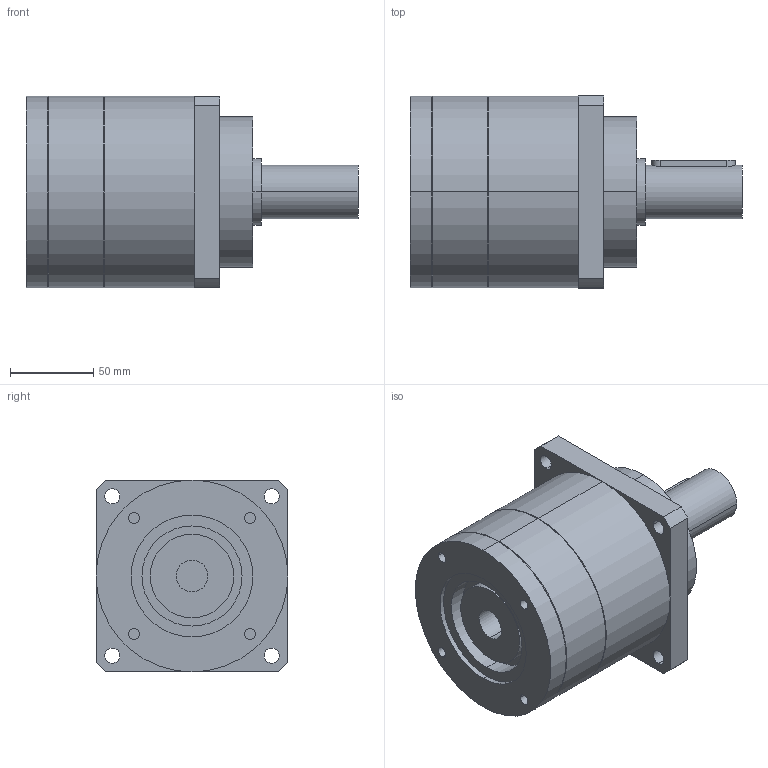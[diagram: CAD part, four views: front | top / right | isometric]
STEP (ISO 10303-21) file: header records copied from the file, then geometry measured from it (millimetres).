
FILE_DESCRIPTION(('CoCreate Modeling STEP Export'),'2;1');
FILE_NAME('GPT120_ig-3-4-5-7-10_32_B5A_19_P04.stp','2015-02-04T16:08:36',(''),(''),'CoCreate Modeling STEP processor for AP214 (Solid Model)','CoCreate Modeling 16.00C 25-Feb-2009 (C) Parametric Technology GmbH','');
FILE_SCHEMA(('AUTOMOTIVE_DESIGN { 1 0 10303 214 1 1 1 1 }'));
Length unit declared in the file: millimetre
Products named in the file (2): GPT120_ig-3-4-5-7-10_32_B5A_19_P04
Assembly tree (1 placements, depth 2):
  GPT120_ig-3-4-5-7-10_32_B5A_19_P04
    GPT120_ig-3-4-5-7-10_32_B5A_19_P04
Bounding box: 199 x 115 x 115 mm (x, y, z)
Volume: 1384620.5 mm3; surface area: 91108.6 mm2
Topology: 1 solids, 1 shells, 75 faces, 190 edges, 131 vertices
Faces by surface type: cylinder 44, plane 27, cone 4
Entity records: 2375 total; most frequent: CARTESIAN_POINT 724, ORIENTED_EDGE 380, DIRECTION 280, EDGE_CURVE 190, VERTEX_POINT 131, AXIS2_PLACEMENT_3D 105, EDGE_LOOP 97, FACE_OUTER_BOUND 75
